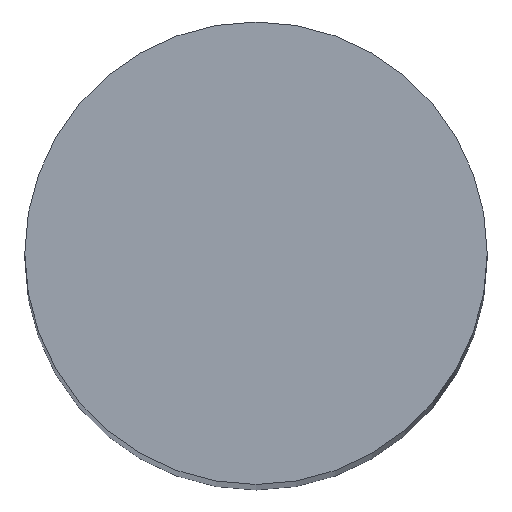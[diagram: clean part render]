
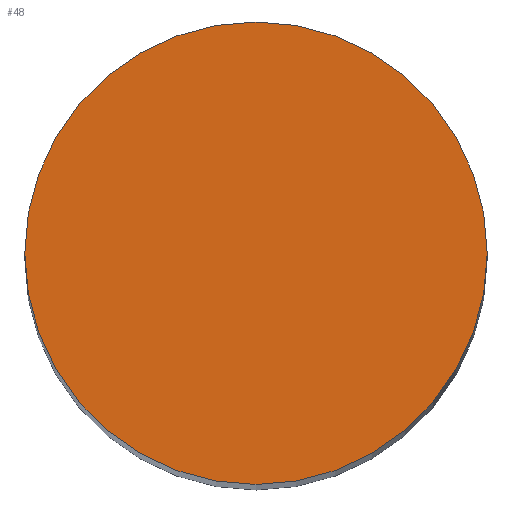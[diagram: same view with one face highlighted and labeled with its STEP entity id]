
A CAD part, top view. The second image highlights one B-rep face of the part: STEP entity #48.
In plain terms, the highlighted planar face has unit normal (0, 0, 1).
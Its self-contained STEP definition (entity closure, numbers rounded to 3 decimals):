
#48=ADVANCED_FACE('',(#91),#92,.T.);
#91=FACE_OUTER_BOUND('',#127,.T.);
#92=PLANE('',#128);
#127=EDGE_LOOP('',(#190,#191));
#128=AXIS2_PLACEMENT_3D('',#192,#193,#194);
#190=ORIENTED_EDGE('',*,*,#226,.T.);
#191=ORIENTED_EDGE('',*,*,#206,.T.);
#192=CARTESIAN_POINT('',(0.0,0.0,0.0));
#193=DIRECTION('',(0.0,0.0,1.0));
#194=DIRECTION('',(1.0,0.0,0.0));
#206=EDGE_CURVE('',#234,#231,#235,.T.);
#226=EDGE_CURVE('',#231,#234,#262,.T.);
#231=VERTEX_POINT('',#267);
#234=VERTEX_POINT('',#271);
#235=CIRCLE('',#272,3.0);
#262=CIRCLE('',#302,3.0);
#267=CARTESIAN_POINT('',(-3.0,0.0,0.0));
#271=CARTESIAN_POINT('',(3.0,0.,0.0));
#272=AXIS2_PLACEMENT_3D('',#307,#308,#309);
#302=AXIS2_PLACEMENT_3D('',#343,#344,#345);
#307=CARTESIAN_POINT('',(0.0,0.0,0.0));
#308=DIRECTION('',(0.0,0.0,1.0));
#309=DIRECTION('',(-1.0,0.0,0.0));
#343=CARTESIAN_POINT('',(0.0,0.0,0.0));
#344=DIRECTION('',(0.0,0.0,1.0));
#345=DIRECTION('',(-1.0,0.0,0.0));
